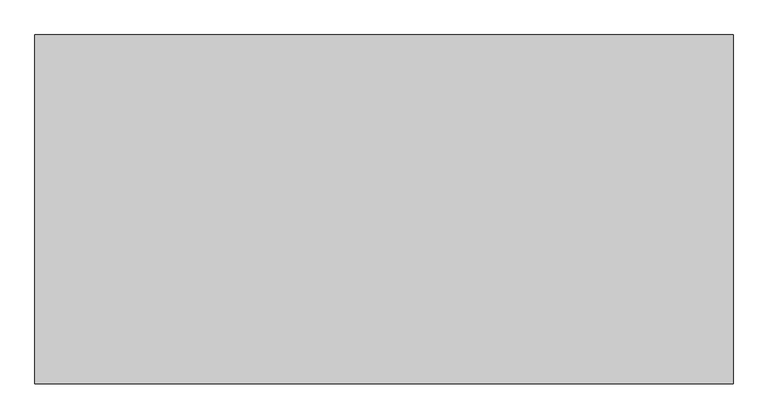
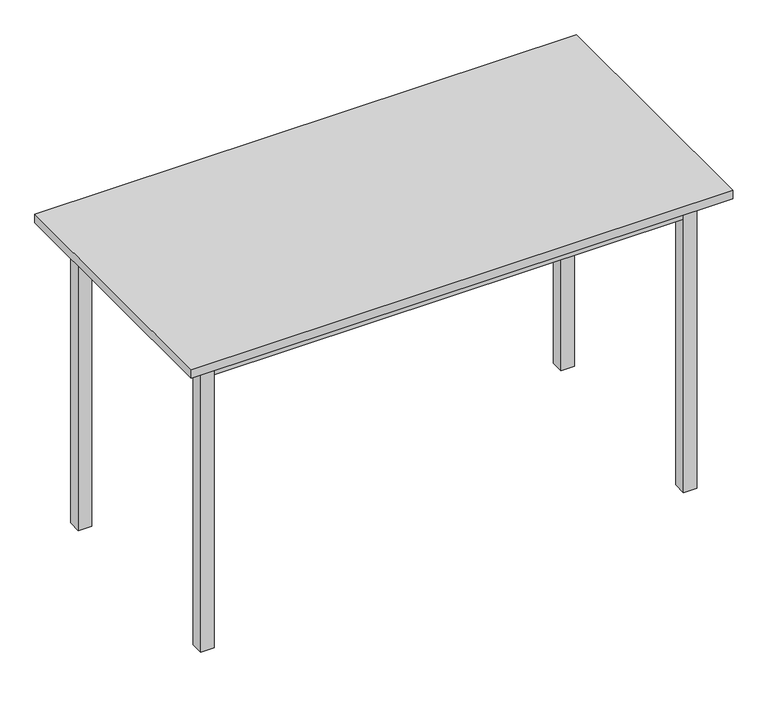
"""IFC4 building model written with IfcOpenShell, lengths in millimetres: furniture geometry, 2.6 Mesa cuadrada 60x120 : 2.6 Mesa cuadrada 60x120."""

from ifc_helpers import new_model, si_unit, frame, origin, origin_with_axes, place, context, project, spatial, polyline, outline, extrude, source, transform, mapped, element, save


def furniture_1ca492f6(model_context):
    return source(origin(), model_context, "Body", "SweptSolid", [
        extrude(outline(polyline([(600.0000238, -300.0000119), (-600.0000238, -300.0000119), (-600.0000238, 300.0000119), (600.0000238, 300.0000119), (600.0000238, -300.0000119)])), frame((0.0, 0.0, 689.9999976), z_axis=(0.0, 0.0, 1.0), x_axis=(1.0, 0.0, 0.0)), (0.0, 0.0, 1.0), 19.9999809),
        extrude(outline(polyline([(-519.970715, -250.0077784), (-550.0000119, -250.0077784), (-550.0000119, -219.9784815), (-519.970715, -219.9784815), (-519.970715, -250.0077784)])), origin_with_axes(), (0.0, 0.0, 1.0), 689.9998784),
        extrude(outline(polyline([(-519.970715, 220.0149298), (-549.9848127, 220.0149298), (-549.9848127, 250.0824034), (-519.970715, 250.0824034), (-519.970715, 220.0149298)])), origin_with_axes(), (0.0, 0.0, 1.0), 689.9999976),
        extrude(outline(polyline([(549.9846935, 220.0531065), (519.9553967, 220.0531065), (519.9553967, 250.0824034), (549.9846935, 250.0824034), (549.9846935, 220.0531065)])), origin_with_axes(), (0.0, 0.0, 1.0), 690.0000572),
        extrude(outline(polyline([(549.9694943, -250.0077784), (519.9401975, -250.0077784), (519.9401975, -219.9784815), (549.9694943, -219.9784815), (549.9694943, -250.0077784)])), origin_with_axes(), (0.0, 0.0, 1.0), 689.9998784),
        extrude(outline(polyline([(519.9401975, -250.0077784), (-519.970715, -250.0077784), (-519.970715, -219.9784815), (519.9401975, -219.9784815), (519.9401975, -250.0077784)])), frame((0.0, 0.0, 639.996767), z_axis=(0.0, 0.0, 1.0), x_axis=(1.0, 0.0, 0.0)), (0.0, 0.0, 1.0), 50.0031114),
        extrude(outline(polyline([(519.9705958, 220.1064974), (-519.9403167, 220.1064974), (-519.9403167, 250.1357943), (519.9705958, 250.1357943), (519.9705958, 220.1064974)])), frame((0.0, 0.0, 639.9968266), z_axis=(0.0, 0.0, 1.0), x_axis=(1.0, 0.0, 0.0)), (0.0, 0.0, 1.0), 50.0031114),
        extrude(outline(polyline([(549.9846935, -219.9784815), (519.9401975, -219.9784815), (519.9401975, 220.0531065), (549.9846935, 220.0531065), (549.9846935, -219.9784815)])), frame((0.0, 0.0, 639.996767), z_axis=(0.0, 0.0, 1.0), x_axis=(1.0, 0.0, 0.0)), (0.0, 0.0, 1.0), 50.0032902),
        extrude(outline(polyline([(-549.9848127, 220.0530916), (-519.970715, 220.0530916), (-519.970715, -219.9784815), (-549.9848127, -219.9784815), (-549.9848127, 220.0530916)])), frame((0.0, 0.0, 639.996767), z_axis=(0.0, 0.0, 1.0), x_axis=(1.0, 0.0, 0.0)), (0.0, 0.0, 1.0), 50.0032902),
    ])


if __name__ == "__main__":
    model = new_model("IFC4")
    model_context = context("Model", 3, world=origin())
    ifc_project = project(units=[si_unit("LENGTHUNIT", "METRE", prefix="MILLI")], contexts=[model_context])
    site = spatial("IfcSite", under=ifc_project)
    building = spatial("IfcBuilding", under=site)
    placement = place(None, origin())
    furniture_shape = furniture_1ca492f6(model_context)
    element("IfcFurniture", 1, ObjectType="2.6 Mesa cuadrada 60x120 : 2.6 Mesa cuadrada 60x120", at=placement, inside=building, context=model_context, shape_type="MappedRepresentation", body=[
        mapped(furniture_shape, transform((0.0, 0.0, 0.0), x_axis=(1.0, 0.0, 0.0), y_axis=(0.0, 1.0, 0.0), z_axis=(0.0, 0.0, 1.0))),
    ])
    save(model, "model.ifc")
